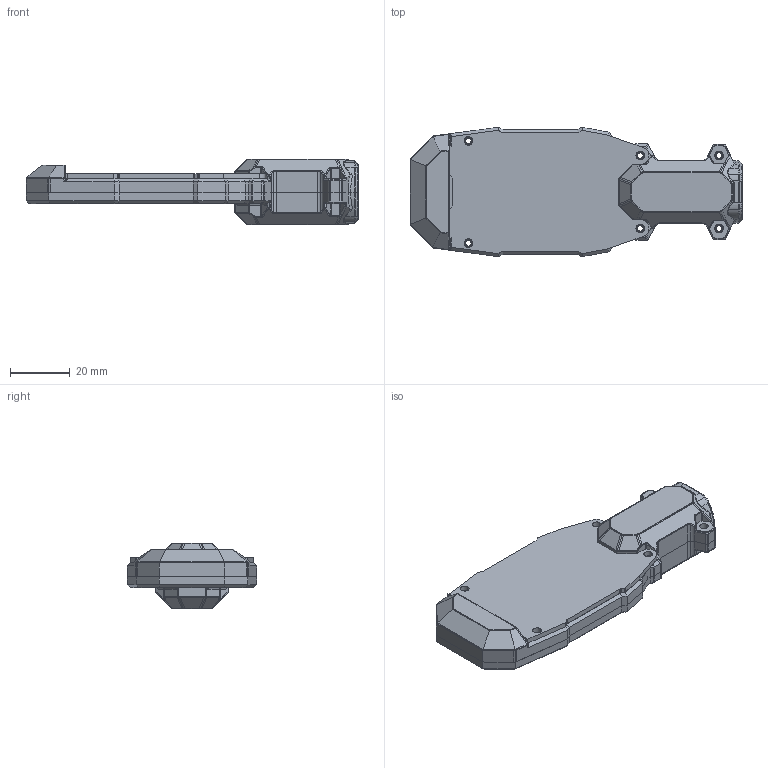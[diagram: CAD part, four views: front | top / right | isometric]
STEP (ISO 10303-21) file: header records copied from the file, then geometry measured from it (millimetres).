
FILE_DESCRIPTION (( 'STEP AP214' ), '1' );
FILE_NAME ('motor-mount.STEP', '2025-11-13T21:39:34', ( '' ), ( '' ), 'SwSTEP 2.0', 'SolidWorks 2021', '' );
FILE_SCHEMA (( 'AUTOMOTIVE_DESIGN' ));
Length unit declared in the file: millimetre
Products named in the file (1): motor-mount
Bounding box: 111.6 x 43.5 x 22.13 mm (x, y, z)
Volume: 24400.8 mm3; surface area: 22813.8 mm2
Topology: 9 solids, 9 shells, 2605 faces, 7377 edges, 4799 vertices
Faces by surface type: cylinder 1221, bspline 972, plane 294, cone 66, sphere 26, torus 26
Entity records: 131103 total; most frequent: CARTESIAN_POINT 44206, ORIENTED_EDGE 14706, DIRECTION 9869, EDGE_CURVE 7353, VERTEX_POINT 4789, AXIS2_PLACEMENT_3D 3527, LINE 2815, VECTOR 2815
